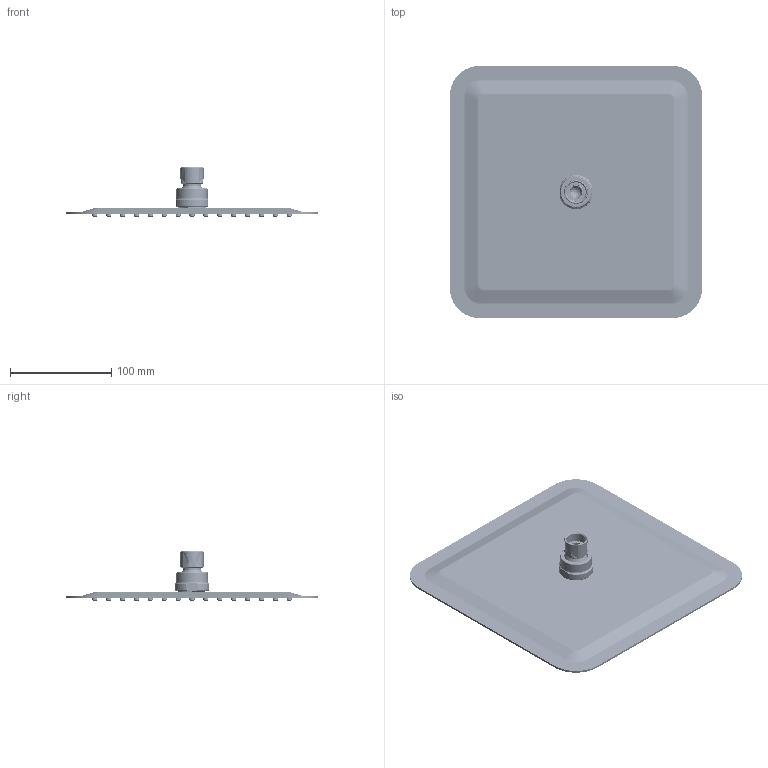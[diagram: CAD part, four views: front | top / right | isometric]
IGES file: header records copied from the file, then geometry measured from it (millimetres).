
Global section: file name: b521b51c-df0b-4cef-ad88-3c071075977e; native system: unknown; preprocessor: unknown; author: unknown; organization: unknown; date: 20200630.092253; units: millimetre
Bounding box: 250 x 250 x 48.9 mm (x, y, z)
Volume: 184001 mm3; surface area: 369258.1 mm2
Topology: 10 solids, 10 shells, 2159 faces, 4765 edges, 3026 vertices
Faces by surface type: bspline 2159
